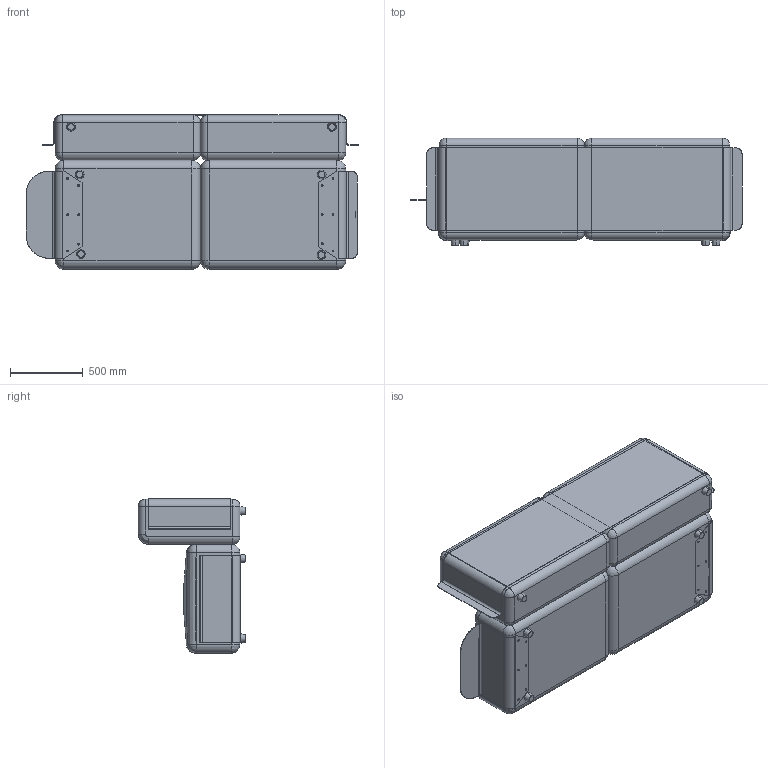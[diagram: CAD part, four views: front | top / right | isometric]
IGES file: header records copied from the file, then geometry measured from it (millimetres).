
Start section: SolidWorks IGES file using analytic representation for surfaces
Global section: file name: \\utenti\Dati Utenti\Tecnico\DC\2D - 3D per sito\3D\DeCastelli-3D-Loom Sofa.igs; native system: SolidWorks 2022; preprocessor: SolidWorks 2022; author: Simonep; date: 240729.120320; units: millimetre
Bounding box: 2285 x 740 x 1063 mm (x, y, z)
Surface area: 11232425.4 mm2 (no closed solid volume)
Topology: 0 solids, 0 shells, 242 faces, 3292 edges, 3280 vertices
Faces by surface type: bspline 123, revolution 119
